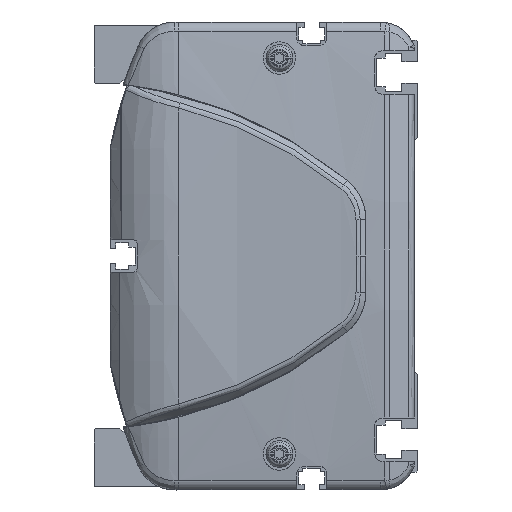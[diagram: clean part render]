
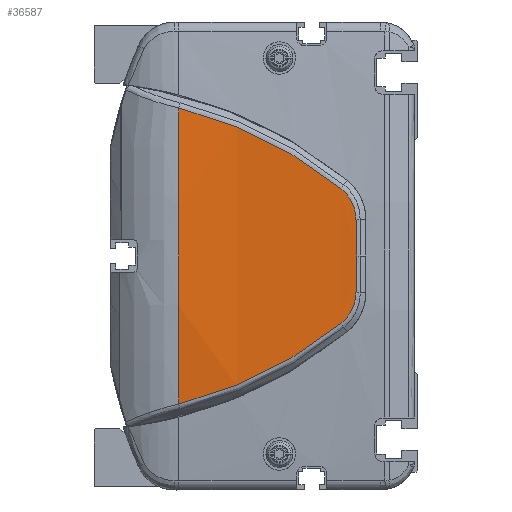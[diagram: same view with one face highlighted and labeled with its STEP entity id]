
A CAD part, left-side view. The second image highlights one B-rep face of the part: STEP entity #36587.
In plain terms, the highlighted cylindrical face has radius 500 mm (diameter 1000 mm), a partial arc.
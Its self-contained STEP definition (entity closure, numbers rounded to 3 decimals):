
#32817=CARTESIAN_POINT('',(486.,66.362,0.));
#32818=DIRECTION('',(0.,-1.,0.));
#32819=DIRECTION('',(-0.997,0.,0.082));
#32820=AXIS2_PLACEMENT_3D('',#32817,#32818,#32819);
#33702=CARTESIAN_POINT('',(-13.648,21.313,
-18.759));
#33703=CARTESIAN_POINT('',(-13.449,27.904,
-24.058));
#33704=CARTESIAN_POINT('',(-12.934,42.195,
-33.27));
#33705=CARTESIAN_POINT('',(-12.471,58.156,
-39.127));
#33706=CARTESIAN_POINT('',(-12.306,66.362,
-41.121));
#33708=CARTESIAN_POINT('',(-12.306,66.362,
41.121));
#33709=CARTESIAN_POINT('',(-12.471,58.156,
39.127));
#33710=CARTESIAN_POINT('',(-12.934,42.195,
33.27));
#33711=CARTESIAN_POINT('',(-13.449,27.904,
24.058));
#33712=CARTESIAN_POINT('',(-13.648,21.313,
18.759));
#33714=CARTESIAN_POINT('',(-13.648,21.313,
18.759));
#33715=CARTESIAN_POINT('',(-13.686,20.035,
17.736));
#33716=CARTESIAN_POINT('',(-13.779,17.936,
15.107));
#33717=CARTESIAN_POINT('',(-13.863,17.152,
11.827));
#33718=CARTESIAN_POINT('',(-13.896,17.124,
10.178));
#33720=CARTESIAN_POINT('',(-13.896,17.124,
10.178));
#33721=CARTESIAN_POINT('',(-13.92,17.107,
9.025));
#33722=CARTESIAN_POINT('',(-13.959,17.067,
6.732));
#33723=CARTESIAN_POINT('',(-13.993,16.98,
3.338));
#33724=CARTESIAN_POINT('',(-14.,16.898,
1.107));
#33725=CARTESIAN_POINT('',(-14.,16.849,
0.));
#33727=CARTESIAN_POINT('',(-14.,16.849,
0.));
#33728=CARTESIAN_POINT('',(-14.,16.898,
-1.107));
#33729=CARTESIAN_POINT('',(-13.993,16.98,
-3.338));
#33730=CARTESIAN_POINT('',(-13.959,17.067,
-6.731));
#33731=CARTESIAN_POINT('',(-13.92,17.107,
-9.027));
#33732=CARTESIAN_POINT('',(-13.896,17.124,
-10.18));
#33734=CARTESIAN_POINT('',(-13.896,17.124,
-10.18));
#33735=CARTESIAN_POINT('',(-13.863,17.152,
-11.828));
#33736=CARTESIAN_POINT('',(-13.779,17.937,
-15.109));
#33737=CARTESIAN_POINT('',(-13.686,20.035,
-17.736));
#33738=CARTESIAN_POINT('',(-13.648,21.313,
-18.759));
#34409=VERTEX_POINT('',#33702);
#34410=VERTEX_POINT('',#33706);
#34411=CARTESIAN_POINT('',(-12.306,66.362,
41.121));
#34412=VERTEX_POINT('',#34411);
#34413=VERTEX_POINT('',#33712);
#34414=VERTEX_POINT('',#33718);
#34415=VERTEX_POINT('',#33725);
#34416=VERTEX_POINT('',#33732);
#36568=CARTESIAN_POINT('',(486.,8.006,0.));
#36569=DIRECTION('',(0.,1.,0.));
#36570=DIRECTION('',(1.,0.,0.));
#36571=AXIS2_PLACEMENT_3D('',#36568,#36569,#36570);
#36572=CYLINDRICAL_SURFACE('',#36571,500.);
#36574=ORIENTED_EDGE('',*,*,#36573,.T.);
#36575=ORIENTED_EDGE('',*,*,#35211,.F.);
#36577=ORIENTED_EDGE('',*,*,#36576,.T.);
#36579=ORIENTED_EDGE('',*,*,#36578,.T.);
#36581=ORIENTED_EDGE('',*,*,#36580,.T.);
#36583=ORIENTED_EDGE('',*,*,#36582,.T.);
#36584=ORIENTED_EDGE('',*,*,#36558,.T.);
#36585=EDGE_LOOP('',(#36574,#36575,#36577,#36579,#36581,#36583,#36584));
#36586=FACE_OUTER_BOUND('',#36585,.F.);
#36587=ADVANCED_FACE('',(#36586),#36572,.T.);
#32821=CIRCLE('',#32820,500.);
#33707=B_SPLINE_CURVE_WITH_KNOTS('',3,(#33702,#33703,#33704,#33705,#33706),
.UNSPECIFIED.,.F.,.F.,(4,1,4),(0.,0.5,1.),.UNSPECIFIED.);
#33713=B_SPLINE_CURVE_WITH_KNOTS('',3,(#33708,#33709,#33710,#33711,#33712),
.UNSPECIFIED.,.F.,.F.,(4,1,4),(0.,0.5,1.),.UNSPECIFIED.);
#33719=B_SPLINE_CURVE_WITH_KNOTS('',3,(#33714,#33715,#33716,#33717,#33718),
.UNSPECIFIED.,.F.,.F.,(4,1,4),(0.,0.5,1.),.UNSPECIFIED.);
#33726=B_SPLINE_CURVE_WITH_KNOTS('',3,(#33720,#33721,#33722,#33723,#33724,
#33725),.UNSPECIFIED.,.F.,.F.,(4,1,1,4),(0.,0.333,
0.667,1.),.UNSPECIFIED.);
#33733=B_SPLINE_CURVE_WITH_KNOTS('',3,(#33727,#33728,#33729,#33730,#33731,
#33732),.UNSPECIFIED.,.F.,.F.,(4,1,1,4),(0.,0.333,
0.667,1.),.UNSPECIFIED.);
#33739=B_SPLINE_CURVE_WITH_KNOTS('',3,(#33734,#33735,#33736,#33737,#33738),
.UNSPECIFIED.,.F.,.F.,(4,1,4),(0.,0.5,1.),.UNSPECIFIED.);
#35211=EDGE_CURVE('',#34412,#34410,#32821,.T.);
#36558=EDGE_CURVE('',#34416,#34409,#33739,.T.);
#36573=EDGE_CURVE('',#34409,#34410,#33707,.T.);
#36576=EDGE_CURVE('',#34412,#34413,#33713,.T.);
#36578=EDGE_CURVE('',#34413,#34414,#33719,.T.);
#36580=EDGE_CURVE('',#34414,#34415,#33726,.T.);
#36582=EDGE_CURVE('',#34415,#34416,#33733,.T.);
